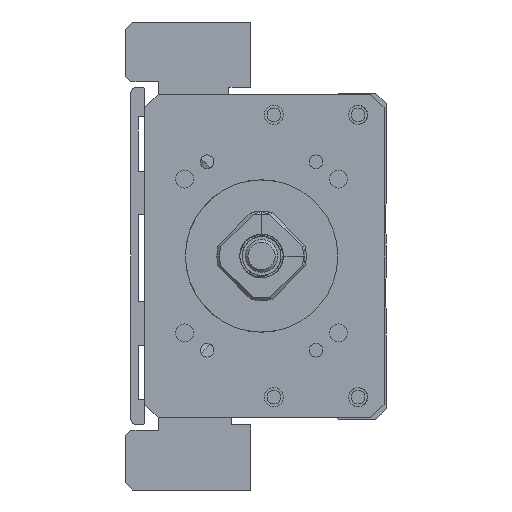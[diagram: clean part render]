
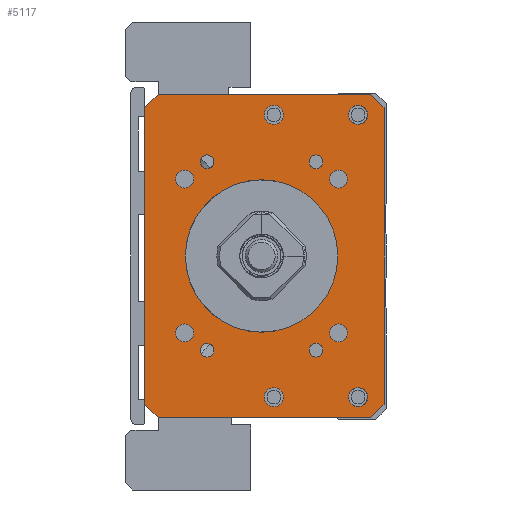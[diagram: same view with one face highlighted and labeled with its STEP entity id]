
A CAD part, left-side view. The second image highlights one B-rep face of the part: STEP entity #5117.
In plain terms, the highlighted planar face has unit normal (-1, 0, 0).
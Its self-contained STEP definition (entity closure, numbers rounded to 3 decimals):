
#5117=ADVANCED_FACE('',(#8121,#8122,#8123,#8124,#8125,#8126,#8127,#8128,
#8129,#8130,#8131,#8132,#8133,#8134),#5751,.F.);
#5751=PLANE('',#16050);
#6283=LINE('',#21082,#7224);
#6285=LINE('',#21106,#7226);
#6286=LINE('',#21108,#7227);
#6287=LINE('',#21110,#7228);
#6288=LINE('',#21112,#7229);
#6289=LINE('',#21114,#7230);
#6290=LINE('',#21116,#7231);
#6291=LINE('',#21118,#7232);
#7224=VECTOR('',#17708,1.);
#7226=VECTOR('',#17732,1.);
#7227=VECTOR('',#17733,1.);
#7228=VECTOR('',#17734,1.);
#7229=VECTOR('',#17735,1.);
#7230=VECTOR('',#17736,1.);
#7231=VECTOR('',#17737,1.);
#7232=VECTOR('',#17738,1.);
#8121=FACE_BOUND('',#8756,.T.);
#8122=FACE_BOUND('',#8757,.T.);
#8123=FACE_BOUND('',#8758,.T.);
#8124=FACE_BOUND('',#8759,.T.);
#8125=FACE_BOUND('',#8760,.T.);
#8126=FACE_BOUND('',#8761,.T.);
#8127=FACE_BOUND('',#8762,.T.);
#8128=FACE_BOUND('',#8763,.T.);
#8129=FACE_BOUND('',#8764,.T.);
#8130=FACE_BOUND('',#8765,.T.);
#8131=FACE_BOUND('',#8766,.T.);
#8132=FACE_BOUND('',#8767,.T.);
#8133=FACE_BOUND('',#8768,.T.);
#8134=FACE_BOUND('',#8769,.T.);
#8756=EDGE_LOOP('',(#10263));
#8757=EDGE_LOOP('',(#10264));
#8758=EDGE_LOOP('',(#10265));
#8759=EDGE_LOOP('',(#10266));
#8760=EDGE_LOOP('',(#10267));
#8761=EDGE_LOOP('',(#10268));
#8762=EDGE_LOOP('',(#10269));
#8763=EDGE_LOOP('',(#10270));
#8764=EDGE_LOOP('',(#10271));
#8765=EDGE_LOOP('',(#10272,#10273,#10274,#10275,#10276,#10277,#10278,#10279));
#8766=EDGE_LOOP('',(#10280));
#8767=EDGE_LOOP('',(#10281));
#8768=EDGE_LOOP('',(#10282));
#8769=EDGE_LOOP('',(#10283));
#10263=ORIENTED_EDGE('',*,*,#14133,.F.);
#10264=ORIENTED_EDGE('',*,*,#14134,.F.);
#10265=ORIENTED_EDGE('',*,*,#14135,.F.);
#10266=ORIENTED_EDGE('',*,*,#14136,.F.);
#10267=ORIENTED_EDGE('',*,*,#14137,.F.);
#10268=ORIENTED_EDGE('',*,*,#14138,.T.);
#10269=ORIENTED_EDGE('',*,*,#14139,.F.);
#10270=ORIENTED_EDGE('',*,*,#14140,.F.);
#10271=ORIENTED_EDGE('',*,*,#14141,.F.);
#10272=ORIENTED_EDGE('',*,*,#14130,.T.);
#10273=ORIENTED_EDGE('',*,*,#14142,.T.);
#10274=ORIENTED_EDGE('',*,*,#14143,.F.);
#10275=ORIENTED_EDGE('',*,*,#14144,.T.);
#10276=ORIENTED_EDGE('',*,*,#14145,.F.);
#10277=ORIENTED_EDGE('',*,*,#14146,.T.);
#10278=ORIENTED_EDGE('',*,*,#14147,.T.);
#10279=ORIENTED_EDGE('',*,*,#14148,.T.);
#10280=ORIENTED_EDGE('',*,*,#14149,.F.);
#10281=ORIENTED_EDGE('',*,*,#14150,.F.);
#10282=ORIENTED_EDGE('',*,*,#14151,.F.);
#10283=ORIENTED_EDGE('',*,*,#14110,.F.);
#12901=VERTEX_POINT('',#21021);
#12921=VERTEX_POINT('',#21081);
#12922=VERTEX_POINT('',#21083);
#12924=VERTEX_POINT('',#21089);
#12925=VERTEX_POINT('',#21091);
#12926=VERTEX_POINT('',#21093);
#12927=VERTEX_POINT('',#21095);
#12928=VERTEX_POINT('',#21097);
#12929=VERTEX_POINT('',#21099);
#12930=VERTEX_POINT('',#21101);
#12931=VERTEX_POINT('',#21103);
#12932=VERTEX_POINT('',#21105);
#12933=VERTEX_POINT('',#21107);
#12934=VERTEX_POINT('',#21109);
#12935=VERTEX_POINT('',#21111);
#12936=VERTEX_POINT('',#21113);
#12937=VERTEX_POINT('',#21115);
#12938=VERTEX_POINT('',#21117);
#12939=VERTEX_POINT('',#21120);
#12940=VERTEX_POINT('',#21122);
#12941=VERTEX_POINT('',#21124);
#14110=EDGE_CURVE('',#12901,#12901,#15429,.T.);
#14130=EDGE_CURVE('',#12922,#12921,#6283,.T.);
#14133=EDGE_CURVE('',#12924,#12924,#15438,.T.);
#14134=EDGE_CURVE('',#12925,#12925,#15439,.T.);
#14135=EDGE_CURVE('',#12926,#12926,#15440,.T.);
#14136=EDGE_CURVE('',#12927,#12927,#15441,.T.);
#14137=EDGE_CURVE('',#12928,#12928,#15442,.T.);
#14138=EDGE_CURVE('',#12929,#12929,#15443,.T.);
#14139=EDGE_CURVE('',#12930,#12930,#15444,.T.);
#14140=EDGE_CURVE('',#12931,#12931,#15445,.T.);
#14141=EDGE_CURVE('',#12932,#12932,#15446,.T.);
#14142=EDGE_CURVE('',#12921,#12933,#6285,.T.);
#14143=EDGE_CURVE('',#12934,#12933,#6286,.T.);
#14144=EDGE_CURVE('',#12934,#12935,#6287,.T.);
#14145=EDGE_CURVE('',#12936,#12935,#6288,.T.);
#14146=EDGE_CURVE('',#12936,#12937,#6289,.T.);
#14147=EDGE_CURVE('',#12937,#12938,#6290,.T.);
#14148=EDGE_CURVE('',#12938,#12922,#6291,.T.);
#14149=EDGE_CURVE('',#12939,#12939,#15447,.T.);
#14150=EDGE_CURVE('',#12940,#12940,#15448,.T.);
#14151=EDGE_CURVE('',#12941,#12941,#15449,.T.);
#15429=CIRCLE('',#16027,14.);
#15438=CIRCLE('',#16038,1.65);
#15439=CIRCLE('',#16039,1.65);
#15440=CIRCLE('',#16040,1.65);
#15441=CIRCLE('',#16041,1.65);
#15442=CIRCLE('',#16042,1.25);
#15443=CIRCLE('',#16043,1.75);
#15444=CIRCLE('',#16044,1.25);
#15445=CIRCLE('',#16045,1.75);
#15446=CIRCLE('',#16046,1.25);
#15447=CIRCLE('',#16047,1.75);
#15448=CIRCLE('',#16048,1.75);
#15449=CIRCLE('',#16049,1.25);
#16027=AXIS2_PLACEMENT_3D('',#21020,#17682,#17683);
#16038=AXIS2_PLACEMENT_3D('',#21088,#17714,#17715);
#16039=AXIS2_PLACEMENT_3D('',#21090,#17716,#17717);
#16040=AXIS2_PLACEMENT_3D('',#21092,#17718,#17719);
#16041=AXIS2_PLACEMENT_3D('',#21094,#17720,#17721);
#16042=AXIS2_PLACEMENT_3D('',#21096,#17722,#17723);
#16043=AXIS2_PLACEMENT_3D('',#21098,#17724,#17725);
#16044=AXIS2_PLACEMENT_3D('',#21100,#17726,#17727);
#16045=AXIS2_PLACEMENT_3D('',#21102,#17728,#17729);
#16046=AXIS2_PLACEMENT_3D('',#21104,#17730,#17731);
#16047=AXIS2_PLACEMENT_3D('',#21119,#17739,#17740);
#16048=AXIS2_PLACEMENT_3D('',#21121,#17741,#17742);
#16049=AXIS2_PLACEMENT_3D('',#21123,#17743,#17744);
#16050=AXIS2_PLACEMENT_3D('',#21125,#17745,#17746);
#17682=DIRECTION('',(-1.,0.,0.));
#17683=DIRECTION('',(0.,1.,0.));
#17708=DIRECTION('',(0.,0.,-1.));
#17714=DIRECTION('',(-1.,0.,0.));
#17715=DIRECTION('',(0.,0.,1.));
#17716=DIRECTION('',(-1.,0.,0.));
#17717=DIRECTION('',(0.,0.,1.));
#17718=DIRECTION('',(-1.,0.,0.));
#17719=DIRECTION('',(0.,0.,1.));
#17720=DIRECTION('',(-1.,0.,0.));
#17721=DIRECTION('',(0.,0.,1.));
#17722=DIRECTION('',(-1.,0.,0.));
#17723=DIRECTION('',(0.,1.,0.));
#17724=DIRECTION('',(1.,0.,0.));
#17725=DIRECTION('',(0.,0.,1.));
#17726=DIRECTION('',(-1.,0.,0.));
#17727=DIRECTION('',(0.,1.,0.));
#17728=DIRECTION('',(-1.,0.,0.));
#17729=DIRECTION('',(0.,0.,1.));
#17730=DIRECTION('',(-1.,0.,0.));
#17731=DIRECTION('',(0.,1.,0.));
#17732=DIRECTION('',(0.,-0.707,-0.707));
#17733=DIRECTION('',(0.,1.,0.));
#17734=DIRECTION('',(0.,-0.707,0.707));
#17735=DIRECTION('',(0.,0.,-1.));
#17736=DIRECTION('',(0.,0.707,0.707));
#17737=DIRECTION('',(0.,1.,0.));
#17738=DIRECTION('',(0.,0.707,-0.707));
#17739=DIRECTION('',(-1.,0.,0.));
#17740=DIRECTION('',(0.,0.,1.));
#17741=DIRECTION('',(-1.,0.,0.));
#17742=DIRECTION('',(0.,0.,1.));
#17743=DIRECTION('',(-1.,0.,0.));
#17744=DIRECTION('',(0.,1.,0.));
#17745=DIRECTION('',(1.,0.,0.));
#17746=DIRECTION('',(0.,1.,0.));
#21020=CARTESIAN_POINT('',(-211.,0.,-200.));
#21021=CARTESIAN_POINT('',(-211.,14.,-200.));
#21081=CARTESIAN_POINT('',(-211.,21.499,-227.25));
#21082=CARTESIAN_POINT('',(-211.,21.499,-170.25));
#21083=CARTESIAN_POINT('',(-211.,21.499,-172.75));
#21088=CARTESIAN_POINT('',(-211.,14.142,-185.858));
#21089=CARTESIAN_POINT('',(-211.,14.142,-184.208));
#21090=CARTESIAN_POINT('',(-211.,-14.142,-185.858));
#21091=CARTESIAN_POINT('',(-211.,-14.142,-184.208));
#21092=CARTESIAN_POINT('',(-211.,14.142,-214.142));
#21093=CARTESIAN_POINT('',(-211.,14.142,-212.492));
#21094=CARTESIAN_POINT('',(-211.,-14.142,-214.142));
#21095=CARTESIAN_POINT('',(-211.,-14.142,-212.492));
#21096=CARTESIAN_POINT('',(-211.,-10.,-217.321));
#21097=CARTESIAN_POINT('',(-211.,-8.75,-217.321));
#21098=CARTESIAN_POINT('',(-211.,-2.25,-225.936));
#21099=CARTESIAN_POINT('',(-211.,-2.25,-224.186));
#21100=CARTESIAN_POINT('',(-211.,10.,-182.679));
#21101=CARTESIAN_POINT('',(-211.,11.25,-182.679));
#21102=CARTESIAN_POINT('',(-211.,-2.25,-174.064));
#21103=CARTESIAN_POINT('',(-211.,-2.25,-172.314));
#21104=CARTESIAN_POINT('',(-211.,10.,-217.321));
#21105=CARTESIAN_POINT('',(-211.,11.25,-217.321));
#21106=CARTESIAN_POINT('',(-211.,18.999,-229.75));
#21107=CARTESIAN_POINT('',(-211.,18.999,-229.75));
#21108=CARTESIAN_POINT('',(-211.,-22.501,-229.75));
#21109=CARTESIAN_POINT('',(-211.,-20.001,-229.75));
#21110=CARTESIAN_POINT('',(-211.,-22.501,-227.25));
#21111=CARTESIAN_POINT('',(-211.,-22.501,-227.25));
#21112=CARTESIAN_POINT('',(-211.,-22.501,-170.25));
#21113=CARTESIAN_POINT('',(-211.,-22.501,-172.75));
#21114=CARTESIAN_POINT('',(-211.,-22.501,-172.75));
#21115=CARTESIAN_POINT('',(-211.,-20.001,-170.25));
#21116=CARTESIAN_POINT('',(-211.,-22.501,-170.25));
#21117=CARTESIAN_POINT('',(-211.,18.999,-170.25));
#21118=CARTESIAN_POINT('',(-211.,18.999,-170.25));
#21119=CARTESIAN_POINT('',(-211.,-17.75,-174.064));
#21120=CARTESIAN_POINT('',(-211.,-17.75,-172.314));
#21121=CARTESIAN_POINT('',(-211.,-17.75,-225.936));
#21122=CARTESIAN_POINT('',(-211.,-17.75,-224.186));
#21123=CARTESIAN_POINT('',(-211.,-10.,-182.679));
#21124=CARTESIAN_POINT('',(-211.,-8.75,-182.679));
#21125=CARTESIAN_POINT('',(-211.,-22.501,-170.25));
